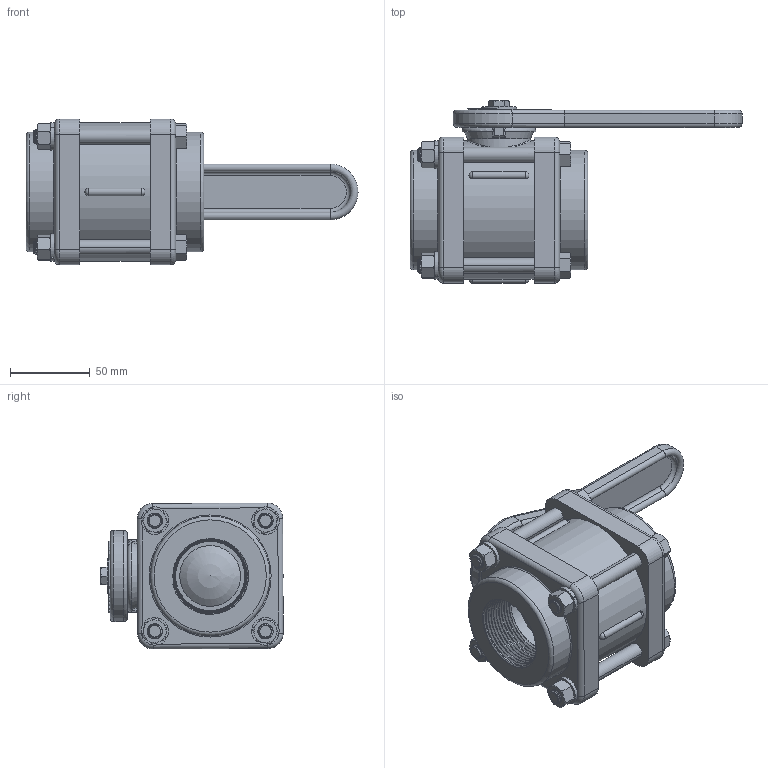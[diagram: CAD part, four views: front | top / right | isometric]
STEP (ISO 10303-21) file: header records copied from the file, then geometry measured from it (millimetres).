
FILE_DESCRIPTION(/* description */ ('Alibre Inc.'),/* implementation_level */ '2;1');
FILE_NAME(/* name */ 'export0',/* time_stamp */ '2019-09-27T11:42:49-04:00',/* author */ (''),/* organization */ (''),/* preprocessor_version */ 'ST-DEVELOPER v17',/* originating_system */ 'Alibre',/* authorisation */ '');
FILE_SCHEMA (('CONFIG_CONTROL_DESIGN'));
Length unit declared in the file: inch
Products named in the file (14): ID_1; ID_2; ID_3; ID_4; ID_5; ID_6; ID_7; ID_8; ID_9; ID_10; ID_11; ID_12
Bounding box: 208.03 x 114.44 x 91.42 mm (x, y, z)
Volume: 591429.1 mm3; surface area: 173663.2 mm2
Topology: 25 solids, 25 shells, 1165 faces, 2959 edges, 1911 vertices
Faces by surface type: cylinder 434, plane 383, cone 185, bspline 113, torus 39, sphere 11
Full cylindrical faces by diameter (mm): 4.978 x1, 9.652 x8, 17.78 x1, 23.622 x3, 31.496 x2, 37.084 x1, 38.1 x2, 39.624 x1, 43.353 x2, 45.72 x4, 66.548 x1, 71.374 x2, 74.93 x2, 75.692 x2, 80.416 x2, 81.026 x2, 86.868 x1, 87.63 x2
Entity records: 54900 total; most frequent: CARTESIAN_POINT 39791, ORIENTED_EDGE 3054, DIRECTION 2191, EDGE_CURVE 1527, VERTEX_POINT 1010, AXIS2_PLACEMENT_3D 866, FACE_BOUND 725, EDGE_LOOP 723
